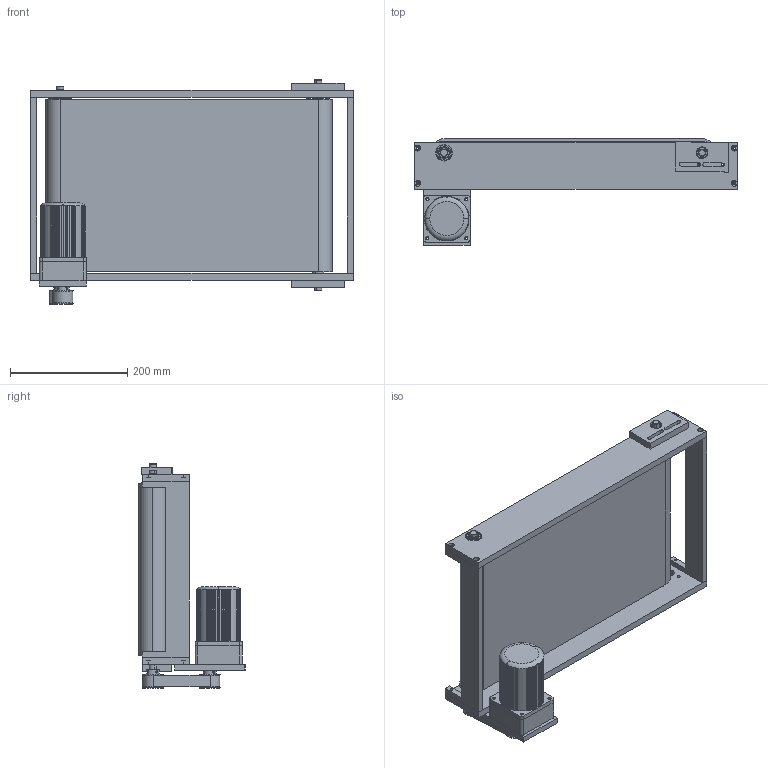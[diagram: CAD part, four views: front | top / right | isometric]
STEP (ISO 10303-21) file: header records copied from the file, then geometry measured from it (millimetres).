
FILE_DESCRIPTION(/* description */ (''),/* implementation_level */ '2;1');
FILE_NAME(/* name */ 'beltconveyor_a042_w300_l500.stp',/* time_stamp */ '2024-12-20T23:43:28+08:00',/* author */ (''),/* organization */ (''),/* preprocessor_version */ 'ST-DEVELOPER v16.7',/* originating_system */ 'SIEMENS PLM Software NX 12.0',/* authorisation */ '');
FILE_SCHEMA (('AUTOMOTIVE_DESIGN { 1 0 10303 214 3 1 1 1 }'));
Products named in the file (14): LX-8-5(从动轴); LX-5-10(欧特电机4IK25RGN); LX-8-4(主动轴); LX-5-7(XL-18Z-20W同步轮); LX-5-6(XL-18Z-20W同步轮); LX-8-7(皮带); LX-8-6(长轴承盖); LX-8-2(侧板); LX-8-9(皮带); LX-8-8(电机安装板); LX-8-1(侧板); LX-8-3(横向支板); LX-5-13(深沟球轴承6001); beltconveyor_a042_w300_l500
Assembly tree (18 placements, depth 2):
  beltconveyor_a042_w300_l500
    LX-5-13(深沟球轴承6001)  x4
    LX-8-3(横向支板)  x2
    LX-8-1(侧板)
    LX-8-8(电机安装板)
    LX-8-9(皮带)
    LX-8-2(侧板)
    LX-8-6(长轴承盖)  x2
    LX-8-7(皮带)
    LX-5-6(XL-18Z-20W同步轮)
    LX-5-7(XL-18Z-20W同步轮)
    LX-8-4(主动轴)
    LX-5-10(欧特电机4IK25RGN)
    LX-8-5(从动轴)
Bounding box: 550 x 181.07 x 382.73 mm (x, y, z)
Volume: 4108097.8 mm3; surface area: 1132404.5 mm2
Topology: 56 solids, 56 shells, 2182 faces, 6164 edges, 4065 vertices
Faces by surface type: plane 718, cylinder 640, extrusion 369, sphere 256, torus 130, cone 69
Entity records: 64176 total; most frequent: CARTESIAN_POINT 21008, ORIENTED_EDGE 9382, DIRECTION 7458, EDGE_CURVE 4691, VERTEX_POINT 3107, AXIS2_PLACEMENT_3D 2600, VECTOR 2258, B_SPLINE_CURVE_WITH_KNOTS 1920
